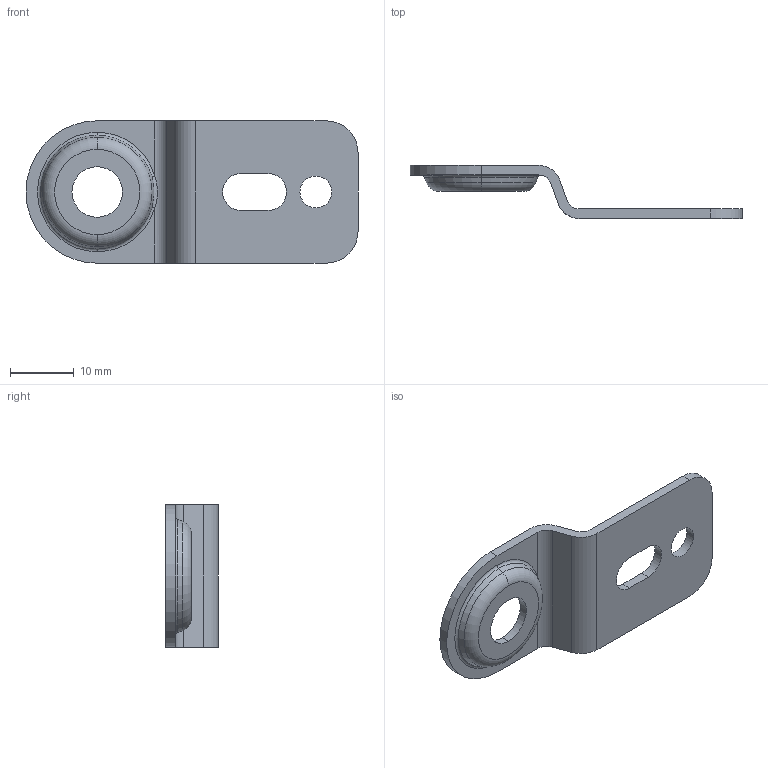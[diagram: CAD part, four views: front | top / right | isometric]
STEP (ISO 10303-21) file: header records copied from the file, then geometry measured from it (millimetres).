
FILE_DESCRIPTION (( 'STEP AP203' ), '1' );
FILE_NAME ('EC-20-0-0.STEP', '2023-09-04T07:49:07', ( '' ), ( '' ), 'SwSTEP 2.0', 'SolidWorks 2021', '' );
FILE_SCHEMA (( 'CONFIG_CONTROL_DESIGN' ));
Length unit declared in the file: millimetre
Products named in the file (1): EC-20-0-0
Bounding box: 52 x 8.3 x 22.3 mm (x, y, z)
Volume: 1702.9 mm3; surface area: 2587 mm2
Topology: 1 solids, 1 shells, 39 faces, 100 edges, 64 vertices
Faces by surface type: cylinder 14, plane 13, torus 7, cone 4, bspline 1
Entity records: 1330 total; most frequent: CARTESIAN_POINT 251, DIRECTION 228, ORIENTED_EDGE 200, EDGE_CURVE 100, AXIS2_PLACEMENT_3D 91, VERTEX_POINT 64, CIRCLE 52, VECTOR 46
